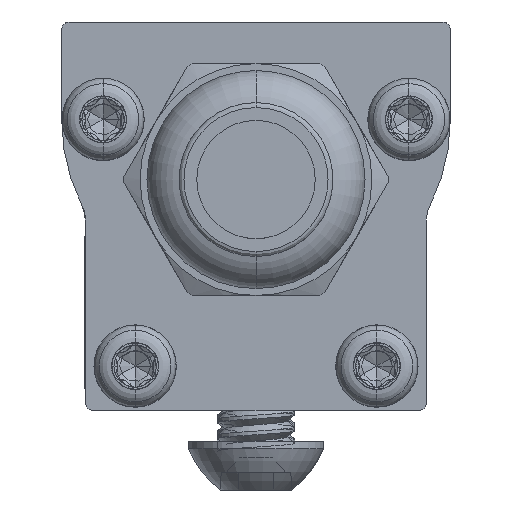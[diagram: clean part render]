
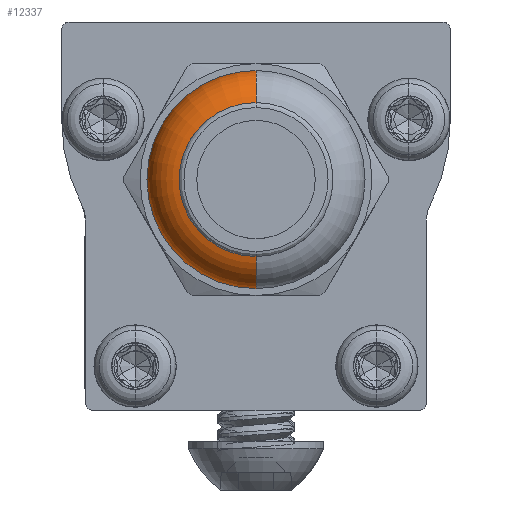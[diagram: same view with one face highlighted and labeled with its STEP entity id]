
A CAD part, left-side view. The second image highlights one B-rep face of the part: STEP entity #12337.
In plain terms, the highlighted toroidal (fillet/blend) face has major radius 3.518 mm and minor radius 2.095 mm.
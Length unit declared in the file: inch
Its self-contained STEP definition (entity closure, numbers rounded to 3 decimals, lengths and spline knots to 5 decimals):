
#24 = CARTESIAN_POINT ( 'NONE',  ( -0.31437, 0., 0.22102 ) ) ;
#845 = CARTESIAN_POINT ( 'NONE',  ( -0.395, 0., -0.156 ) ) ;
#1816 = VERTEX_POINT ( 'NONE', #24 ) ;
#1956 = EDGE_CURVE ( 'NONE', #1816, #10924, #17825, .T. ) ;
#2335 = DIRECTION ( 'NONE',  ( 0., 0., 1. ) ) ;
#2812 = DIRECTION ( 'NONE',  ( 0., 0., 1. ) ) ;
#5319 = VERTEX_POINT ( 'NONE', #845 ) ;
#6093 = CARTESIAN_POINT ( 'NONE',  ( -0.31437, 0., 0. ) ) ;
#6355 = ORIENTED_EDGE ( 'NONE', *, *, #22148, .F. ) ;
#6953 = DIRECTION ( 'NONE',  ( 0., 0., 1. ) ) ;
#7031 = AXIS2_PLACEMENT_3D ( 'NONE', #8956, #16385, #6953 ) ;
#7732 = EDGE_CURVE ( 'NONE', #10993, #1816, #8019, .T. ) ;
#8019 = CIRCLE ( 'NONE', #15287, 0.22102 ) ;
#8345 = CARTESIAN_POINT ( 'NONE',  ( -0.31437, 0., 0.13852 ) ) ;
#8956 = CARTESIAN_POINT ( 'NONE',  ( -0.395, 0., 0. ) ) ;
#9754 = ORIENTED_EDGE ( 'NONE', *, *, #1956, .F. ) ;
#9858 = EDGE_LOOP ( 'NONE', ( #11226, #21444, #6355, #9754 ) ) ;
#10615 = CIRCLE ( 'NONE', #7031, 0.156 ) ;
#10924 = VERTEX_POINT ( 'NONE', #12072 ) ;
#10993 = VERTEX_POINT ( 'NONE', #11973 ) ;
#11226 = ORIENTED_EDGE ( 'NONE', *, *, #7732, .F. ) ;
#11973 = CARTESIAN_POINT ( 'NONE',  ( -0.31437, 0., -0.22102 ) ) ;
#12072 = CARTESIAN_POINT ( 'NONE',  ( -0.395, 0., 0.156 ) ) ;
#12337 = ADVANCED_FACE ( 'NONE', ( #16893 ), #18765, .T. ) ;
#14416 = AXIS2_PLACEMENT_3D ( 'NONE', #8345, #19968, #27100 ) ;
#15287 = AXIS2_PLACEMENT_3D ( 'NONE', #26090, #23847, #2335 ) ;
#16385 = DIRECTION ( 'NONE',  ( -1., 0., 0. ) ) ;
#16893 = FACE_OUTER_BOUND ( 'NONE', #9858, .T. ) ;
#17388 = DIRECTION ( 'NONE',  ( 0., 1., 0. ) ) ;
#17556 = AXIS2_PLACEMENT_3D ( 'NONE', #6093, #25188, #22604 ) ;
#17825 = CIRCLE ( 'NONE', #14416, 0.0825 ) ;
#18765 = TOROIDAL_SURFACE ( 'NONE', #17556, 0.13852, 0.0825 ) ;
#19968 = DIRECTION ( 'NONE',  ( 0., -1., 0. ) ) ;
#21060 = CIRCLE ( 'NONE', #30816, 0.0825 ) ;
#21444 = ORIENTED_EDGE ( 'NONE', *, *, #22552, .T. ) ;
#22148 = EDGE_CURVE ( 'NONE', #10924, #5319, #10615, .T. ) ;
#22552 = EDGE_CURVE ( 'NONE', #10993, #5319, #21060, .T. ) ;
#22604 = DIRECTION ( 'NONE',  ( 0., 0., 1. ) ) ;
#23847 = DIRECTION ( 'NONE',  ( 1., 0., 0. ) ) ;
#25188 = DIRECTION ( 'NONE',  ( -1., 0., 0. ) ) ;
#26090 = CARTESIAN_POINT ( 'NONE',  ( -0.31437, 0., 0. ) ) ;
#27048 = CARTESIAN_POINT ( 'NONE',  ( -0.31437, 0., -0.13852 ) ) ;
#27100 = DIRECTION ( 'NONE',  ( 0., 0., -1. ) ) ;
#30816 = AXIS2_PLACEMENT_3D ( 'NONE', #27048, #17388, #2812 ) ;
